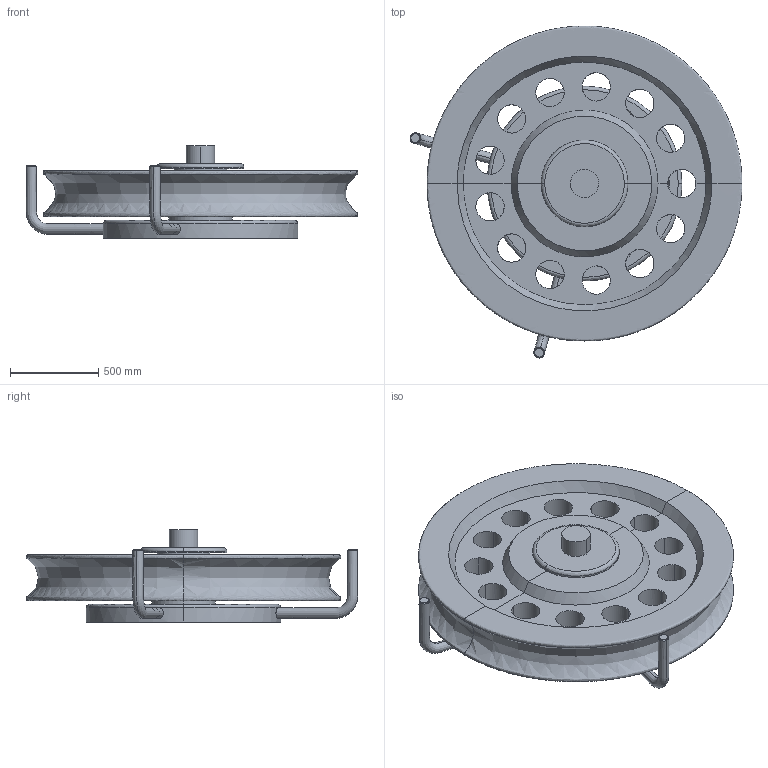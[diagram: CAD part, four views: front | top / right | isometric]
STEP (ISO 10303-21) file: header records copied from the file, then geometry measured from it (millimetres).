
FILE_DESCRIPTION(/* description */ (''),/* implementation_level */ '2;1');
FILE_NAME(/* name */ 'POULIE SIMPLE PLAT PONT D 180',/* time_stamp */ '2005-05-31T09:03:54+02:00',/* author */ (''),/* organization */ (''),/* preprocessor_version */ 'ST-DEVELOPER v8',/* originating_system */ '',/* authorisation */ '');
FILE_SCHEMA (('CONFIG_CONTROL_DESIGN'));
Length unit declared in the file: centimetre
Products named in the file (1): 1
Bounding box: 1876.16 x 1876.17 x 520 mm (x, y, z)
Volume: 499092984.9 mm3; surface area: 12098212.4 mm2
Topology: 9 solids, 9 shells, 189 faces, 421 edges, 246 vertices
Faces by surface type: bspline 189
Entity records: 9575 total; most frequent: CARTESIAN_POINT 7044, ORIENTED_EDGE 834, EDGE_CURVE 417, VERTEX_POINT 246, EDGE_LOOP 235, B_SPLINE_CURVE_WITH_KNOTS 225, ADVANCED_FACE 189, FACE_OUTER_BOUND 189
